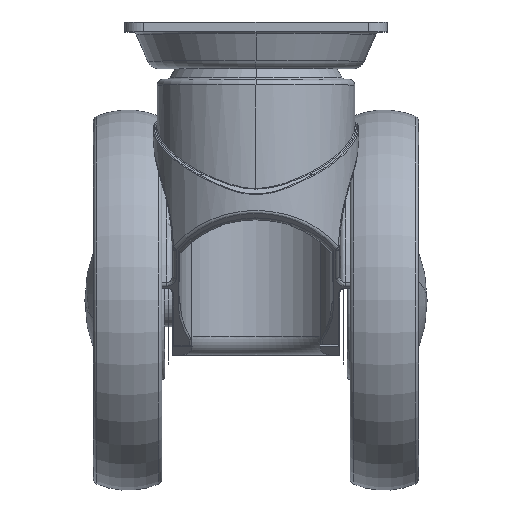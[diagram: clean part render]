
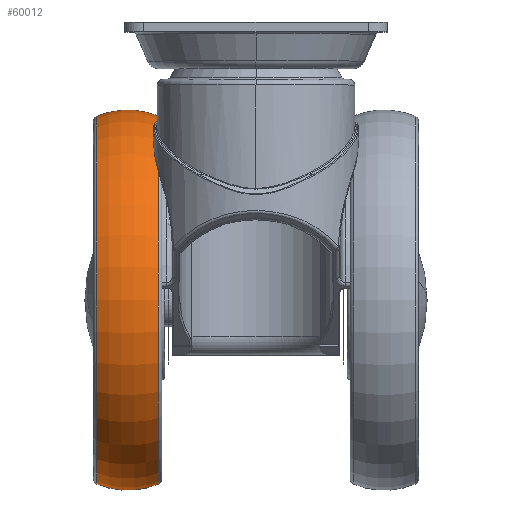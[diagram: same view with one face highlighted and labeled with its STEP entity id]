
A CAD part, top view. The second image highlights one B-rep face of the part: STEP entity #60012.
In plain terms, the highlighted toroidal (fillet/blend) face has major radius 28.75 mm and minor radius 21.25 mm.
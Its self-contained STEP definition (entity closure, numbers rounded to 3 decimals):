
#59862=CARTESIAN_POINT('',(-41.82,0.,0.));
#59863=DIRECTION('',(-1.,0.,0.));
#59864=DIRECTION('',(0.,-1.,0.));
#59865=AXIS2_PLACEMENT_3D('',#59862,#59863,#59864);
#59867=CARTESIAN_POINT('',(-25.68,0.,0.));
#59868=DIRECTION('',(-1.,0.,0.));
#59869=DIRECTION('',(0.,-1.,0.));
#59870=AXIS2_PLACEMENT_3D('',#59867,#59868,#59869);
#59907=CARTESIAN_POINT('',(-33.75,-28.75,0.));
#59908=DIRECTION('',(0.,0.,-1.));
#59909=DIRECTION('',(0.38,-0.925,0.));
#59910=AXIS2_PLACEMENT_3D('',#59907,#59908,#59909);
#59917=CARTESIAN_POINT('',(-33.75,28.75,0.));
#59918=DIRECTION('',(0.,0.,1.));
#59919=DIRECTION('',(0.38,0.925,0.));
#59920=AXIS2_PLACEMENT_3D('',#59917,#59918,#59919);
#59939=CARTESIAN_POINT('',(-41.82,-48.408,0.));
#59940=CARTESIAN_POINT('',(-41.82,48.408,
0.));
#59941=VERTEX_POINT('',#59939);
#59942=VERTEX_POINT('',#59940);
#59943=CARTESIAN_POINT('',(-25.68,-48.408,0.));
#59944=CARTESIAN_POINT('',(-25.68,48.408,
0.));
#59945=VERTEX_POINT('',#59943);
#59946=VERTEX_POINT('',#59944);
#59998=CARTESIAN_POINT('',(-33.75,0.,0.));
#59999=DIRECTION('',(1.,0.,0.));
#60000=DIRECTION('',(0.,-1.,0.));
#60001=AXIS2_PLACEMENT_3D('',#59998,#59999,#60000);
#60002=TOROIDAL_SURFACE('',#60001,28.75,21.25);
#60004=ORIENTED_EDGE('',*,*,#60003,.T.);
#60006=ORIENTED_EDGE('',*,*,#60005,.F.);
#60007=ORIENTED_EDGE('',*,*,#59981,.F.);
#60009=ORIENTED_EDGE('',*,*,#60008,.T.);
#60010=EDGE_LOOP('',(#60004,#60006,#60007,#60009));
#60011=FACE_OUTER_BOUND('',#60010,.F.);
#59866=CIRCLE('',#59865,48.408);
#59871=CIRCLE('',#59870,48.408);
#59911=CIRCLE('',#59910,21.25);
#59921=CIRCLE('',#59920,21.25);
#59981=EDGE_CURVE('',#59945,#59946,#59871,.T.);
#60003=EDGE_CURVE('',#59941,#59942,#59866,.T.);
#60005=EDGE_CURVE('',#59946,#59942,#59921,.T.);
#60008=EDGE_CURVE('',#59945,#59941,#59911,.T.);
#60012=ADVANCED_FACE('',(#60011),#60002,.T.);
